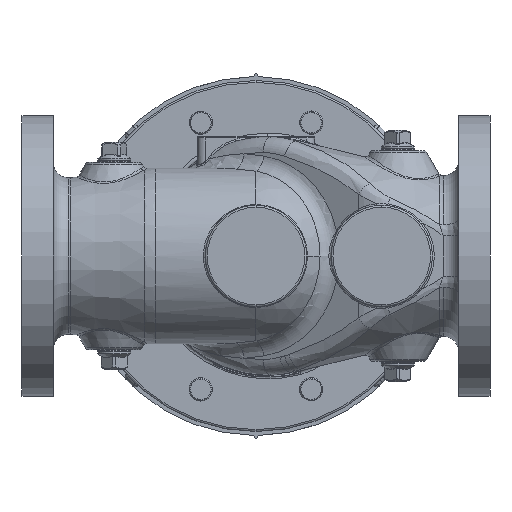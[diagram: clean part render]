
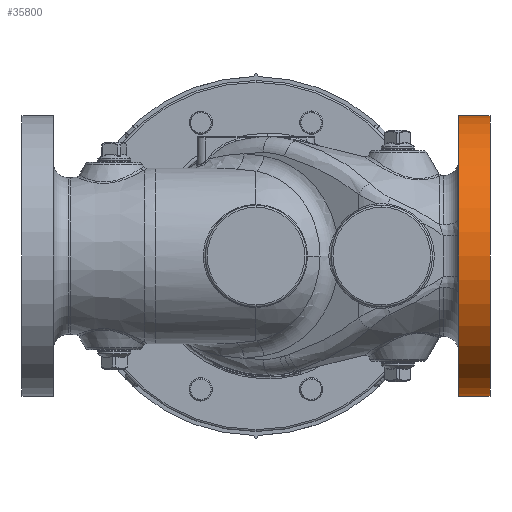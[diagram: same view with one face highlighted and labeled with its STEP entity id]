
A CAD part, front view. The second image highlights one B-rep face of the part: STEP entity #35800.
In plain terms, the highlighted cylindrical face has radius 114.3 mm (diameter 228.6 mm), a partial arc.
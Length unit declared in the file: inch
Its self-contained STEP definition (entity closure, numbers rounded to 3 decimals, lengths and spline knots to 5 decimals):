
#1893 = CARTESIAN_POINT ( 'NONE',  ( 6.5, 0., 0. ) ) ;
#2959 = DIRECTION ( 'NONE',  ( -1., 0., 0. ) ) ;
#3482 = VECTOR ( 'NONE', #29396, 39.37008 ) ;
#6124 = FACE_OUTER_BOUND ( 'NONE', #10407, .T. ) ;
#6798 = DIRECTION ( 'NONE',  ( 0., 0., 1. ) ) ;
#8413 = ORIENTED_EDGE ( 'NONE', *, *, #30987, .F. ) ;
#9690 = ORIENTED_EDGE ( 'NONE', *, *, #19948, .F. ) ;
#10407 = EDGE_LOOP ( 'NONE', ( #8413, #33833, #11145, #9690 ) ) ;
#11145 = ORIENTED_EDGE ( 'NONE', *, *, #14472, .T. ) ;
#12224 = VERTEX_POINT ( 'NONE', #28912 ) ;
#14472 = EDGE_CURVE ( 'NONE', #61807, #12224, #16496, .T. ) ;
#15875 = CARTESIAN_POINT ( 'NONE',  ( 7.5, 0., 4.5 ) ) ;
#15927 = AXIS2_PLACEMENT_3D ( 'NONE', #53477, #43888, #43473 ) ;
#16496 = LINE ( 'NONE', #54130, #3482 ) ;
#17600 = CYLINDRICAL_SURFACE ( 'NONE', #15927, 4.5 ) ;
#18072 = AXIS2_PLACEMENT_3D ( 'NONE', #32214, #2959, #37141 ) ;
#19948 = EDGE_CURVE ( 'NONE', #45179, #12224, #43816, .T. ) ;
#28912 = CARTESIAN_POINT ( 'NONE',  ( 6.5, 0., 4.5 ) ) ;
#29396 = DIRECTION ( 'NONE',  ( -1., 0., 0. ) ) ;
#30987 = EDGE_CURVE ( 'NONE', #47086, #45179, #53123, .T. ) ;
#32214 = CARTESIAN_POINT ( 'NONE',  ( 7.5, 0., 0. ) ) ;
#33833 = ORIENTED_EDGE ( 'NONE', *, *, #61337, .T. ) ;
#35800 = ADVANCED_FACE ( 'NONE', ( #6124 ), #17600, .T. ) ;
#36061 = DIRECTION ( 'NONE',  ( -1., 0., 0. ) ) ;
#37141 = DIRECTION ( 'NONE',  ( 0., 0., 1. ) ) ;
#41408 = CARTESIAN_POINT ( 'NONE',  ( 7.5, 0., -4.5 ) ) ;
#41698 = CARTESIAN_POINT ( 'NONE',  ( -6.70335, 0., -4.5 ) ) ;
#42782 = AXIS2_PLACEMENT_3D ( 'NONE', #1893, #36061, #6798 ) ;
#43473 = DIRECTION ( 'NONE',  ( 0., 0., 1. ) ) ;
#43816 = CIRCLE ( 'NONE', #42782, 4.5 ) ;
#43888 = DIRECTION ( 'NONE',  ( -1., 0., 0. ) ) ;
#45179 = VERTEX_POINT ( 'NONE', #45900 ) ;
#45900 = CARTESIAN_POINT ( 'NONE',  ( 6.5, 0., -4.5 ) ) ;
#47086 = VERTEX_POINT ( 'NONE', #41408 ) ;
#49584 = CIRCLE ( 'NONE', #18072, 4.5 ) ;
#50025 = VECTOR ( 'NONE', #56152, 39.37008 ) ;
#53123 = LINE ( 'NONE', #41698, #50025 ) ;
#53477 = CARTESIAN_POINT ( 'NONE',  ( -6.70335, 0., 0. ) ) ;
#54130 = CARTESIAN_POINT ( 'NONE',  ( -6.70335, 0., 4.5 ) ) ;
#56152 = DIRECTION ( 'NONE',  ( -1., 0., 0. ) ) ;
#61337 = EDGE_CURVE ( 'NONE', #47086, #61807, #49584, .T. ) ;
#61807 = VERTEX_POINT ( 'NONE', #15875 ) ;
